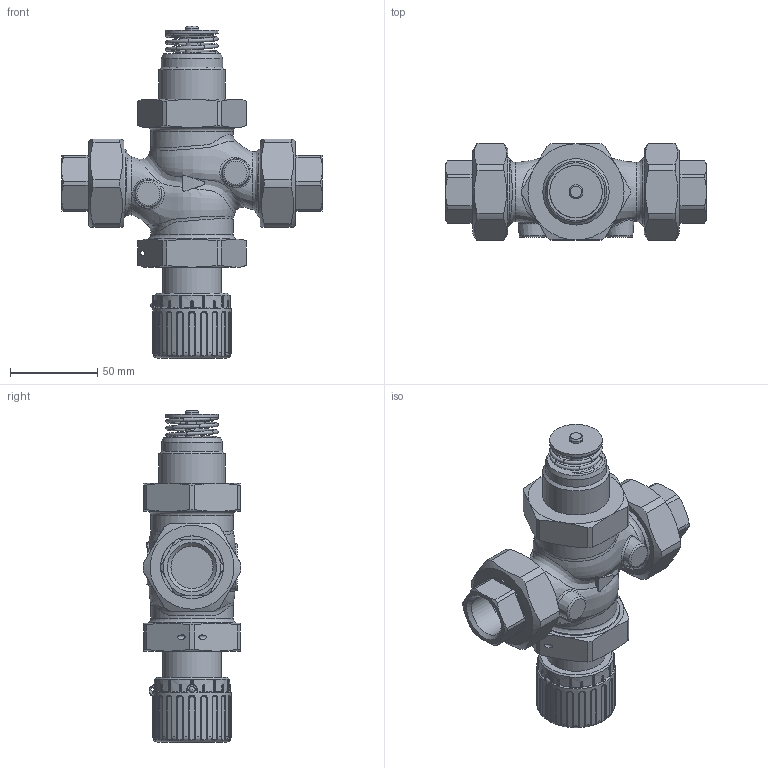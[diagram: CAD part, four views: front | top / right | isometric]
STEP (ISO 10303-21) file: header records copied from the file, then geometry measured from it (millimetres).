
FILE_DESCRIPTION(/* description */ (''),/* implementation_level */ '2;1');
FILE_NAME(/* name */ 'rv122p_dn20_T.stp',/* time_stamp */ '2012-11-05T15:43:36+01:00',/* author */ ('JENIK'),/* organization */ ('LDM'),/* preprocessor_version */ 'ST-DEVELOPER v11',/* originating_system */ 'SIEMENS PLM Software NX 7.0',/* authorisation */ '');
FILE_SCHEMA (('CONFIG_CONTROL_DESIGN'));
Length unit declared in the file: millimetre
Products named in the file (1): jeniA85B0dsv
Bounding box: 149 x 55.98 x 190 mm (x, y, z)
Volume: 62422.5 mm3; surface area: 74823.8 mm2
Topology: 6 solids, 7 shells, 632 faces, 1581 edges, 981 vertices
Faces by surface type: cylinder 216, plane 181, bspline 103, torus 70, cone 61, sphere 1
Full cylindrical faces by diameter (mm): 2 x1, 2.5 x1, 8 x2, 24.117 x2, 24.5 x1, 27.5 x2, 28 x2, 30 x1, 33.8 x1, 35 x1, 35.8 x2, 36 x2, 37 x1, 38 x3, 38.8 x2, 38.952 x2, 41.91 x2, 43 x1, 47 x2
Entity records: 29234 total; most frequent: CARTESIAN_POINT 15628, ORIENTED_EDGE 2890, DIRECTION 2604, EDGE_CURVE 1445, AXIS2_PLACEMENT_3D 1086, VERTEX_POINT 931, EDGE_LOOP 754, ADVANCED_FACE 632
